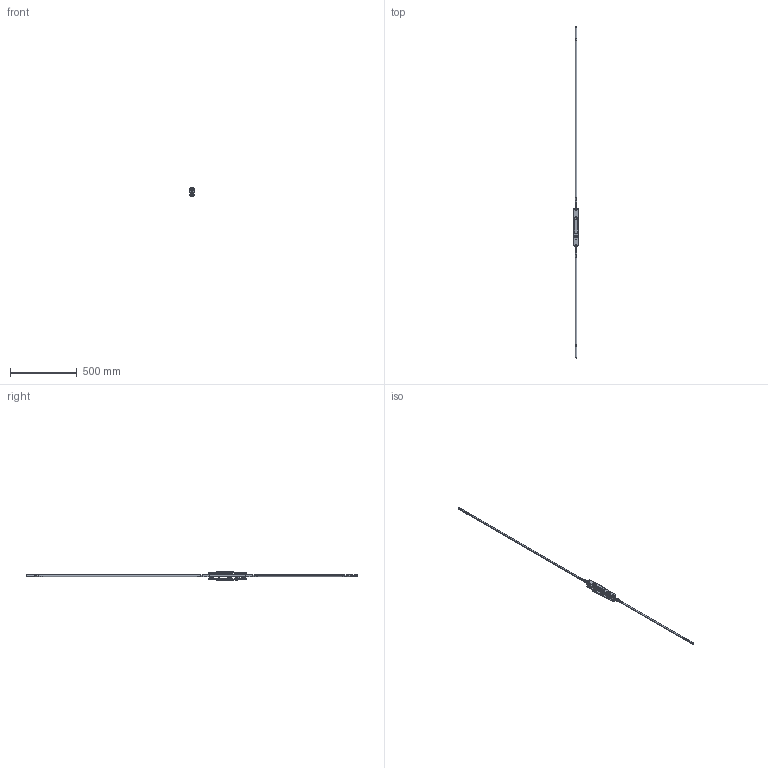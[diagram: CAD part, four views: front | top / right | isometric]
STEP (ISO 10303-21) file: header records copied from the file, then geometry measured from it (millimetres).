
FILE_DESCRIPTION (( 'STEP AP214' ), '1' );
FILE_NAME ('TPL-H-APC-105-C 17Oct2024.STEP', '2024-10-17T04:37:08', ( '' ), ( '' ), 'SwSTEP 2.0', 'SolidWorks 2023', '' );
FILE_SCHEMA (( 'AUTOMOTIVE_DESIGN' ));
Length unit declared in the file: millimetre
Products named in the file (22): Copy of LKC-576 Bolt adaptor - simplified^TPL-H-APC-606 16Oct2024; Copy of LKC-585 Rotator body zinc^Copy (2) of TPGen2 handle keyed internal zinc - simplified_TPL-H-APC-606 16Oct2024; Copy of LKC-514 Escutcheon plate keyed external 285mm long zinc - simplified^Copy of TPGen2 handle keyed external zinc - simplified_TPL-H-APC-606 16Oct2024; Copy of LKC-512 Escutcheon plate keyed internal 285mm long zinc - simplified^Copy (2) of TPGen2 handle keyed internal zinc - simplified_TPL-H-APC-606 16Oct2024; Copy of LKC-586 Spindle square 8mm with M4 hole^Copy (2) of TPGen2 handle keyed internal zinc - simplified_TPL-H-APC-606 16Oct2024_38mm; Copy (2) of LKC-540 Transmission rod aluminium system TPLGen2^TPL-H-APC-606 16Oct2024_2885mm; Copy of TPGen2 handle keyed external zinc - simplified^TPL-H-APC-606 16Oct2024_Vertical; Copy of TPL-H-APC-515 04Oct2024^TPL-H-APC-606 16Oct2024; Copy of LKC-505 Swing handle zinc - simplified^Copy of TPGen2 handle keyed external zinc - simplified_TPL-H-APC-606 16Oct2024; Copy of TPL-036 Lock cylinder double key C4 3-5 PIN 55 (23-32)mm^TPL-H-APC-606 16Oct2024_Left; TPL-H-APC-105-C 17Oct2024; Copy of LKC-505 Swing handle zinc - simplified^Copy (2) of TPGen2 handle keyed internal zinc - simplified_TPL-H-APC-606 16Oct2024; Copy (2) of TPGen2 handle keyed internal zinc - simplified^TPL-H-APC-606 16Oct2024_Vertical; Copy of LKC-585 Rotator body zinc^Copy of TPGen2 handle keyed external zinc - simplified_TPL-H-APC-606 16Oct2024; Copy of LKC-584 Pivot body zinc - simplified^Copy (2) of TPGen2 handle keyed internal zinc - simplified_TPL-H-APC-606 16Oct2024; Copy of TPL-H-APC-517 04Oct2024^TPL-H-APC-606 16Oct2024; Copy (2) of TPLGen2 lock body keyed assembly^TPL-H-APC-606 16Oct2024_Bolts extended - left; Copy of TPLGen2 push rod - simplified^Copy (2) of TPLGen2 lock body keyed assembly_TPL-H-APC-606 16Oct2024_Female thread M10; Copy of LKC-532 Rod connector - simplified^TPL-H-APC-606 16Oct2024; Copy of LKC-584 Pivot body zinc - simplified^Copy of TPGen2 handle keyed external zinc - simplified_TPL-H-APC-606 16Oct2024; Copy of TPLGen2 lock body keyed^Copy (2) of TPLGen2 lock body keyed assembly_TPL-H-APC-606 16Oct2024_Left; Copy of LKC-540 Transmission rod aluminium system TPLGen2^TPL-H-APC-606 16Oct2024_2885mm
Assembly tree (30 placements, depth 3):
  TPL-H-APC-105-C 17Oct2024
    Copy (2) of TPLGen2 lock body keyed assembly^TPL-H-APC-606 16Oct2024_Bolts extended - left
      Copy of TPLGen2 lock body keyed^Copy (2) of TPLGen2 lock body keyed assembly_TPL-H-APC-606 16Oct2024_Left
      Copy of TPLGen2 push rod - simplified^Copy (2) of TPLGen2 lock body keyed assembly_TPL-H-APC-606 16Oct2024_Female thread M10  x2
    Copy (2) of TPGen2 handle keyed internal zinc - simplified^TPL-H-APC-606 16Oct2024_Vertical
      Copy of LKC-512 Escutcheon plate keyed internal 285mm long zinc - simplified^Copy (2) of TPGen2 handle keyed internal zinc - simplified_TPL-H-APC-606 16Oct2024
      Copy of LKC-505 Swing handle zinc - simplified^Copy (2) of TPGen2 handle keyed internal zinc - simplified_TPL-H-APC-606 16Oct2024
      Copy of LKC-585 Rotator body zinc^Copy (2) of TPGen2 handle keyed internal zinc - simplified_TPL-H-APC-606 16Oct2024
      Copy of LKC-586 Spindle square 8mm with M4 hole^Copy (2) of TPGen2 handle keyed internal zinc - simplified_TPL-H-APC-606 16Oct2024_38mm
      Copy of LKC-584 Pivot body zinc - simplified^Copy (2) of TPGen2 handle keyed internal zinc - simplified_TPL-H-APC-606 16Oct2024
    Copy of TPGen2 handle keyed external zinc - simplified^TPL-H-APC-606 16Oct2024_Vertical
      Copy of LKC-514 Escutcheon plate keyed external 285mm long zinc - simplified^Copy of TPGen2 handle keyed external zinc - simplified_TPL-H-APC-606 16Oct2024
      Copy of LKC-505 Swing handle zinc - simplified^Copy of TPGen2 handle keyed external zinc - simplified_TPL-H-APC-606 16Oct2024
      Copy of LKC-585 Rotator body zinc^Copy of TPGen2 handle keyed external zinc - simplified_TPL-H-APC-606 16Oct2024
      Copy of LKC-584 Pivot body zinc - simplified^Copy of TPGen2 handle keyed external zinc - simplified_TPL-H-APC-606 16Oct2024
    Copy of TPL-036 Lock cylinder double key C4 3-5 PIN 55 (23-32)mm^TPL-H-APC-606 16Oct2024_Left
    Copy of LKC-532 Rod connector - simplified^TPL-H-APC-606 16Oct2024  x2
    Copy of LKC-540 Transmission rod aluminium system TPLGen2^TPL-H-APC-606 16Oct2024_2885mm
    Copy (2) of LKC-540 Transmission rod aluminium system TPLGen2^TPL-H-APC-606 16Oct2024_2885mm
    Copy of LKC-576 Bolt adaptor - simplified^TPL-H-APC-606 16Oct2024  x2
    Copy of TPL-H-APC-517 04Oct2024^TPL-H-APC-606 16Oct2024  x2
    Copy of TPL-H-APC-515 04Oct2024^TPL-H-APC-606 16Oct2024  x6
Bounding box: 35 x 2496 x 68.92 mm (x, y, z)
Volume: 412000 mm3; surface area: 273196.6 mm2
Topology: 27 solids, 27 shells, 2239 faces, 5416 edges, 3260 vertices
Faces by surface type: cylinder 703, plane 614, bspline 448, torus 228, cone 184, sphere 62
Entity records: 52344 total; most frequent: CARTESIAN_POINT 22924, ORIENTED_EDGE 6376, DIRECTION 5604, EDGE_CURVE 3188, AXIS2_PLACEMENT_3D 2277, VERTEX_POINT 1921, EDGE_LOOP 1489, ADVANCED_FACE 1356
